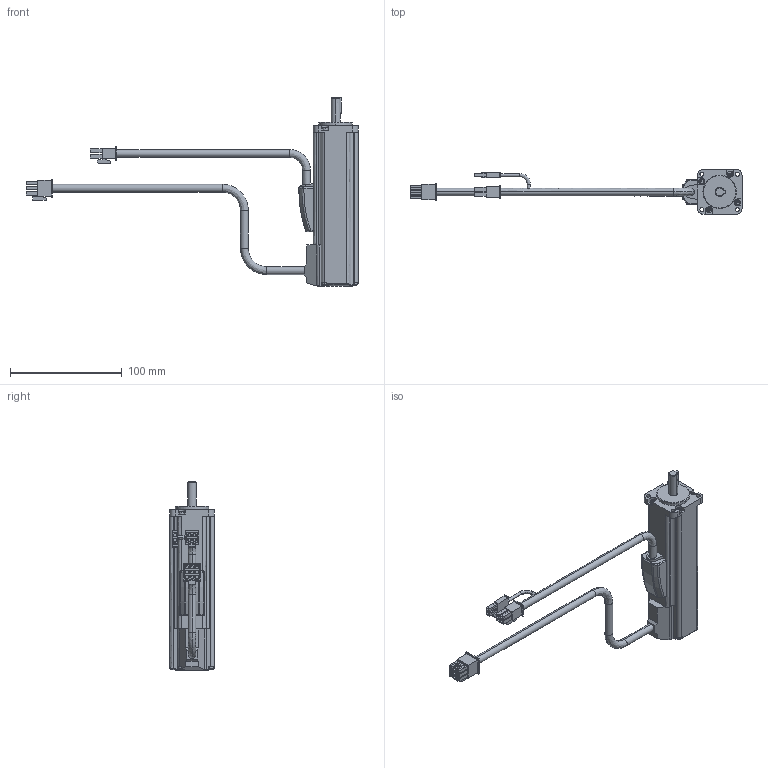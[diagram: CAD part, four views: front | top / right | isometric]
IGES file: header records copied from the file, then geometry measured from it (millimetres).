
Start section:  PTC IGES file: RSMZ-01BA3xT.igs
Global section: file name: RSMZ-01BA3xT.igs; native system: Pro/ENGINEER by Parametric Technology Corporation; preprocessor: 2004440; author: Administrator; organization: Unknown; date: 070904.190717; units: millimetre
Bounding box: 297.7 x 40 x 169 mm (x, y, z)
Volume: 239090 mm3; surface area: 44482.2 mm2
Topology: 1 solids, 1 shells, 502 faces, 1266 edges, 821 vertices
Faces by surface type: bspline 362, revolution 140
